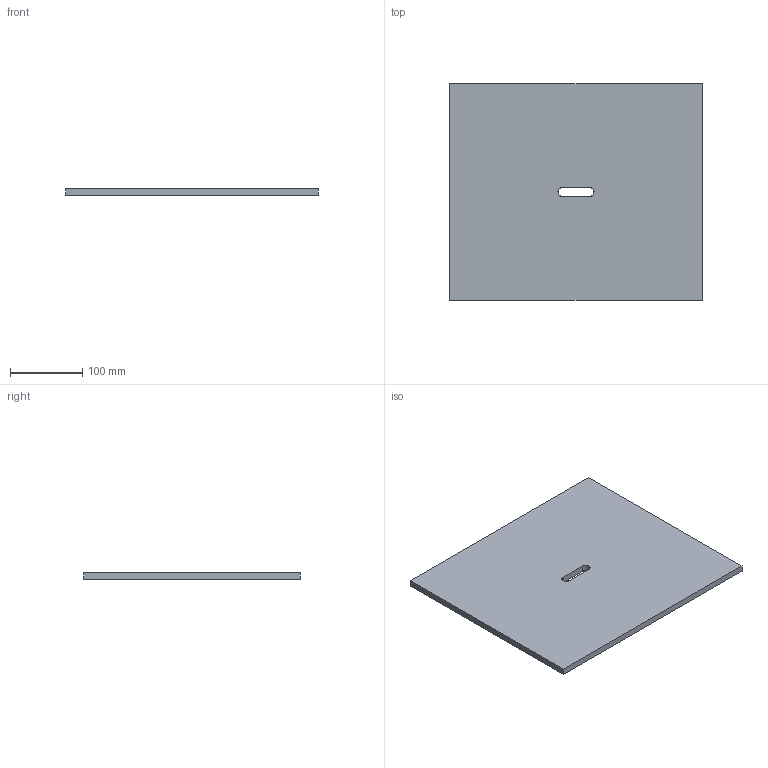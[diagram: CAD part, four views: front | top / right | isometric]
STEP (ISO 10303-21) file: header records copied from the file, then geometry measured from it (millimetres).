
FILE_DESCRIPTION(('Open CASCADE Model'),'2;1');
FILE_NAME('Open CASCADE Shape Model','2026-10-16T18:03:45',('Author'),( 'Open CASCADE'),'Open CASCADE STEP processor 7.8','Open CASCADE 7.8' ,'Unknown');
FILE_SCHEMA(('AUTOMOTIVE_DESIGN { 1 0 10303 214 1 1 1 1 }'));
Length unit declared in the file: millimetre
Products named in the file (1): Open CASCADE STEP translator 7.8 17
Bounding box: 350 x 300 x 9 mm (x, y, z)
Volume: 939878.1 mm3; surface area: 221585.1 mm2
Topology: 1 solids, 1 shells, 10 faces, 24 edges, 16 vertices
Faces by surface type: plane 8, cylinder 2
Entity records: 622 total; most frequent: CARTESIAN_POINT 131, DIRECTION 86, LINE 56, VECTOR 56, ORIENTED_EDGE 48, PCURVE 48, DEFINITIONAL_REPRESENTATION 48, EDGE_CURVE 24
